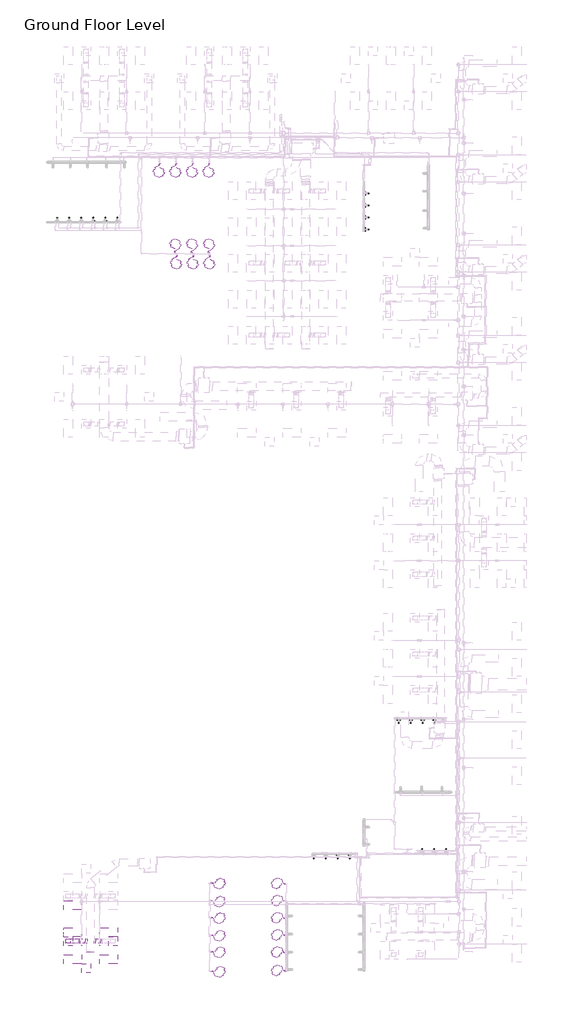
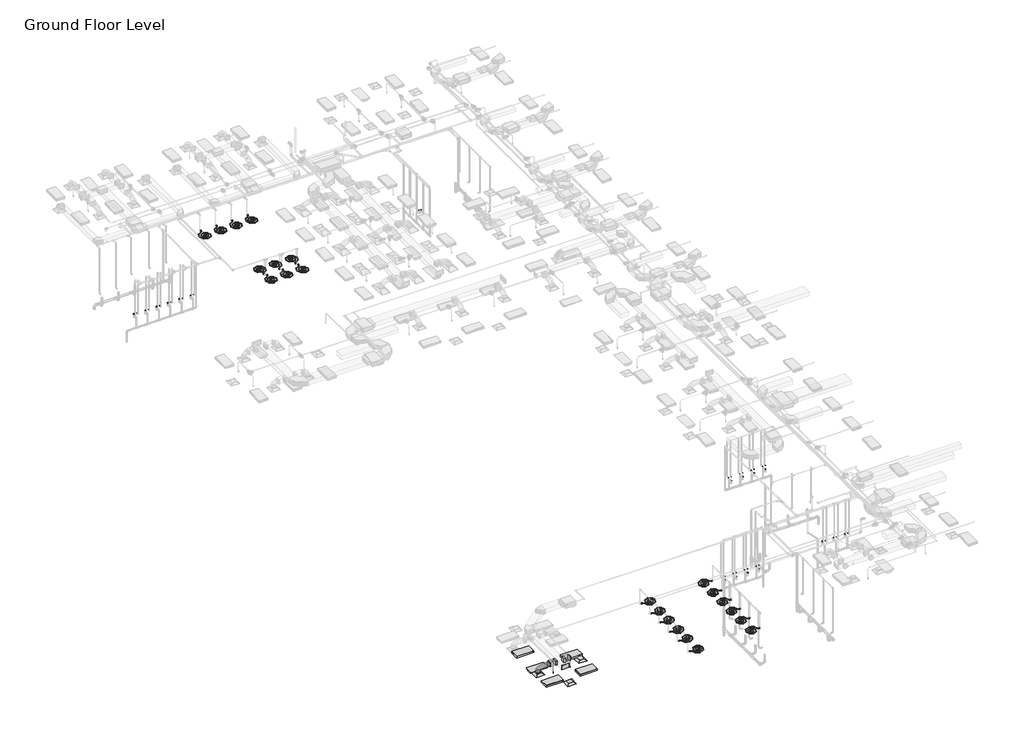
# One storey, part 1 of 73: 43 flow terminals, 6 duct fittings, 5 light fixtures, 3 air terminals, 3 duct segments, 2 fire suppression terminals, 2 pipe segments.
"""IFC4 building model written with IfcOpenShell, lengths in millimetres."""

from ifc_helpers import new_model, si_unit, point, frame, frame_2d, origin, place, context, project, spatial, polyline, circle_curve, ellipse_curve, trimmed, segment, composite_curve, outline, extrude, transform, mapped, element, save
from ifc_brep_helpers import plane_surface, cylinder_surface, advanced_brep
from components import m_return_diffuser_600_x_600_face_300_x_300_connection_ff221211, m_rectangular_endcap_standard_72d4d00d, m_rectangular_takeoff_standard_cb0ccb98, m_rectangular_takeoff_standard_2be5eba1, m_rectangular_to_round_transition_angle_45_degree_641efff0, m_sprinkler_dry_pendent_hosted_15_mm_dry_pendent_9bda8e11, lavatory_unit_m_type_1_c53317d3, shower_m_shower_m_c8aa42c7, m_emergency_recessed_lighting_fixture_600x1200_277_5b10b25d, m_troffer_light_parabolic_rectangular1_0600x1200mm_4_lamp_86473d4a

model = new_model("IFC4")

# Units and contexts
model_context = context("Model", 3, world=origin())
ifc_project = project(units=[si_unit("LENGTHUNIT", "METRE", prefix="MILLI")], contexts=[model_context])

# Site, building, storey
site = spatial("IfcSite", under=ifc_project)
building = spatial("IfcBuilding", under=site)
storey = spatial("IfcBuildingStorey", under=building, Name="Ground Floor Level", Elevation=900.0)

# Air terminals
placement = place(None, origin())
m_return_diffuser_600_x_600_face_300_x_300_connection_shape = m_return_diffuser_600_x_600_face_300_x_300_connection_ff221211(model_context)
element("IfcAirTerminal", 1, ObjectType="M_Return Diffuser : 600 x 600 Face 300 x 300 Connection", at=placement, inside=storey, context=model_context, shape_type="MappedRepresentation", body=[
    mapped(m_return_diffuser_600_x_600_face_300_x_300_connection_shape, transform((-19137.2327605, -40464.7846466, 3650.0), x_axis=(1.0, 0.0, 0.0), y_axis=(0.0, 1.0, 0.0), z_axis=(0.0, 0.0, 1.0))),
])
element("IfcAirTerminal", 2, ObjectType="M_Supply Diffuser : 600 x 600 Face 300 x 300 Connection", at=placement, inside=storey, context=model_context, shape_type="MappedRepresentation", body=[
    mapped(m_return_diffuser_600_x_600_face_300_x_300_connection_shape, transform((-20337.2327605, -38664.7846466, 3650.0), x_axis=(1.0, 0.0, 0.0), y_axis=(0.0, 1.0, 0.0), z_axis=(0.0, 0.0, 1.0))),
])
element("IfcAirTerminal", 3, ObjectType="M_Supply Diffuser : 600 x 600 Face 300 x 300 Connection", at=placement, inside=storey, context=model_context, shape_type="MappedRepresentation", body=[
    mapped(m_return_diffuser_600_x_600_face_300_x_300_connection_shape, transform((-17337.2327605, -38674.7846466, 3650.0), x_axis=(1.0, 0.0, 0.0), y_axis=(0.0, 1.0, 0.0), z_axis=(0.0, 0.0, 1.0))),
])

# Duct fittings
m_rectangular_endcap_standard_shape = m_rectangular_endcap_standard_72d4d00d(model_context)
element("IfcDuctFitting", 4, ObjectType="M_Rectangular Endcap : Standard", at=placement, inside=storey, context=model_context, shape_type="MappedRepresentation", body=[
    mapped(m_rectangular_endcap_standard_shape, transform((-18834.0450532, -39368.1580197, 4100.0), x_axis=(0.0, -1.0, 0.0), y_axis=(1.0, 0.0, 0.0), z_axis=(0.0, 0.0, 1.0))),
])
m_rectangular_takeoff_standard_shape = m_rectangular_takeoff_standard_cb0ccb98(model_context)
element("IfcDuctFitting", 5, ObjectType="M_Rectangular Takeoff : Standard", at=placement, inside=storey, context=model_context, shape_type="MappedRepresentation", body=[
    mapped(m_rectangular_takeoff_standard_shape, transform((-18584.0450532, -38664.7846466, 4100.0), x_axis=(1.0, 0.0, 0.0), y_axis=(0.0, -1.0, 0.0), z_axis=(0.0, 0.0, -1.0))),
])
m_rectangular_takeoff_standard_2_shape = m_rectangular_takeoff_standard_2be5eba1(model_context)
element("IfcDuctFitting", 6, ObjectType="M_Rectangular Takeoff : Standard", at=placement, inside=storey, context=model_context, shape_type="MappedRepresentation", body=[
    mapped(m_rectangular_takeoff_standard_2_shape, transform((-19084.0450532, -38664.7846466, 4100.0), x_axis=(-1.0, 0.0, 0.0), y_axis=(0.0, 1.0, 0.0), z_axis=(0.0, 0.0, -1.0))),
])
m_rectangular_to_round_transition_angle_45_degree_shape = m_rectangular_to_round_transition_angle_45_degree_641efff0(model_context)
element("IfcDuctFitting", 7, ObjectType="M_Rectangular to Round Transition - Angle : 45 Degree", at=placement, inside=storey, context=model_context, shape_type="MappedRepresentation", body=[
    mapped(m_rectangular_to_round_transition_angle_45_degree_shape, transform((-18164.5686918, -38664.7846466, 4100.0), x_axis=(1.0, 0.0, 0.0), y_axis=(0.0, 1.0, 0.0), z_axis=(0.0, 0.0, 1.0))),
])
element("IfcDuctFitting", 8, ObjectType="M_Rectangular to Round Transition - Angle : 45 Degree", at=placement, inside=storey, context=model_context, shape_type="MappedRepresentation", body=[
    mapped(m_rectangular_to_round_transition_angle_45_degree_shape, transform((-20337.2327605, -38664.7846466, 3751.6), x_axis=(0.0, 0.0, 1.0), y_axis=(-1.0, 0.0, 0.0), z_axis=(0.0, -1.0, 0.0))),
])
element("IfcDuctFitting", 9, ObjectType="M_Rectangular to Round Transition - Angle : 45 Degree", at=placement, inside=storey, context=model_context, shape_type="MappedRepresentation", body=[
    mapped(m_rectangular_to_round_transition_angle_45_degree_shape, transform((-19509.8968292, -38664.7846466, 4100.0), x_axis=(-1.0, 0.0, 0.0), y_axis=(0.0, -1.0, 0.0), z_axis=(0.0, 0.0, 1.0))),
])

# Duct segments
element("IfcDuctSegment", 10, ObjectType="Flex - Round", at=placement, inside=storey, context=model_context, shape_type="AdvancedBrep", body=[
    advanced_brep(
    [(-20187.2327605, -38664.7846466, 3826.6), (-20337.2327605, -38814.7846466, 3826.6), (-20487.2327605, -38664.7846466, 3826.6), (-20337.2327605, -38514.7846466, 3826.6), (-20187.2327605, -38664.7846466, 3832.2944892), (-20337.2327605, -38814.7846466, 3857.9377114), (-20487.2327605, -38664.7846466, 3883.5809337), (-20337.2327605, -38514.7846466, 3857.9377114), (-20186.478849, -38664.7846466, 3834.435049), (-20320.216828, -38814.7846466, 3906.2505728), (-20453.9548069, -38664.7846466, 3978.0660967), (-20320.216828, -38514.7846466, 3906.2505728), (-20168.8270484, -38664.7846466, 3857.8020236), (-20273.0329476, -38814.7846466, 3968.7113131), (-20377.2388469, -38664.7846466, 4079.6206026), (-20273.0329476, -38514.7846466, 3968.7113131), (-20132.5429398, -38664.7846466, 3881.8163788), (-20201.4769955, -38814.7846466, 4016.0700639), (-20270.4110511, -38664.7846466, 4150.3237489), (-20201.4769955, -38514.7846466, 4016.0700639), (-20067.7840843, -38664.7846466, 3906.4925606), (-20111.3448475, -38814.7846466, 4050.4146682), (-20154.9056106, -38664.7846466, 4194.3367758), (-20111.3448475, -38514.7846466, 4050.4146682), (-19981.8714556, -38664.7846466, 3926.0424542), (-20008.4323796, -38814.7846466, 4073.8329691), (-20034.9933036, -38664.7846466, 4221.6234841), (-20008.4323796, -38514.7846466, 4073.8329691), (-19883.3845655, -38664.7846466, 3939.1085462), (-19898.5354679, -38814.7846466, 4088.4128097), (-19913.6863702, -38664.7846466, 4237.7170733), (-19898.5354679, -38514.7846466, 4088.4128097), (-19779.9446601, -38664.7846466, 3946.398915), (-19787.4499883, -38814.7846466, 4096.242033), (-19794.9553164, -38664.7846466, 4246.085151), (-19787.4499883, -38514.7846466, 4096.242033), (-19678.2803236, -38664.7846466, 3949.4222102), (-19680.9718167, -38814.7846466, 4099.4084821), (-19683.6633098, -38664.7846466, 4249.394754), (-19680.9718167, -38514.7846466, 4099.4084821), (-19583.9733214, -38664.7846466, 3950.0028429), (-19584.8968292, -38814.7846466, 4100.0), (-19585.8203371, -38664.7846466, 4249.9971571), (-19584.8968292, -38514.7846466, 4100.0)],
    [
        (0, 1, circle_curve(frame((-20337.2327605, -38664.7846466, 3826.6), z_axis=(0.0, 0.0, -1.0), x_axis=(1.0, 0.0, 0.0)), 150.0)),
        (1, 2, circle_curve(frame((-20337.2327605, -38664.7846466, 3826.6), z_axis=(0.0, 0.0, -1.0), x_axis=(1.0, 0.0, 0.0)), 150.0)),
        (2, 3, circle_curve(frame((-20337.2327605, -38664.7846466, 3826.6), z_axis=(0.0, 0.0, -1.0), x_axis=(1.0, 0.0, 0.0)), 150.0)),
        (3, 0, circle_curve(frame((-20337.2327605, -38664.7846466, 3826.6), z_axis=(0.0, 0.0, -1.0), x_axis=(1.0, 0.0, 0.0)), 150.0)),
        (0, 4),
        (4, 5, ellipse_curve(frame((-20337.2327605, -38664.7846466, 3857.9377114), z_axis=(-0.16851014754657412, 0.0, -0.9856999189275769), x_axis=(0.9856999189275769, 0.0, -0.16851014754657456)), 152.176131, 150.0)),
        (5, 1),
        (5, 6, ellipse_curve(frame((-20337.2327605, -38664.7846466, 3857.9377114), z_axis=(-0.16851014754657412, 0.0, -0.9856999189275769), x_axis=(0.9856999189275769, 0.0, -0.16851014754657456)), 152.176131, 150.0)),
        (6, 2),
        (6, 7, ellipse_curve(frame((-20337.2327605, -38664.7846466, 3857.9377114), z_axis=(-0.16851014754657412, 0.0, -0.9856999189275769), x_axis=(0.9856999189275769, 0.0, -0.16851014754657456)), 152.176131, 150.0)),
        (7, 3),
        (7, 4, ellipse_curve(frame((-20337.2327605, -38664.7846466, 3857.9377114), z_axis=(-0.16851014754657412, 0.0, -0.9856999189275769), x_axis=(0.9856999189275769, 0.0, -0.16851014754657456)), 152.176131, 150.0)),
        (4, 8),
        (8, 9, ellipse_curve(frame((-20320.216828, -38664.7846466, 3906.2505728), z_axis=(-0.47309225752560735, 0.0, -0.881012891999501), x_axis=(0.8810128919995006, 0.0, -0.4730922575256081)), 151.8002519, 150.0)),
        (9, 5),
        (9, 10, ellipse_curve(frame((-20320.216828, -38664.7846466, 3906.2505728), z_axis=(-0.47309225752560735, 0.0, -0.881012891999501), x_axis=(0.8810128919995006, 0.0, -0.4730922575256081)), 151.8002519, 150.0)),
        (10, 6),
        (10, 11, ellipse_curve(frame((-20320.216828, -38664.7846466, 3906.2505728), z_axis=(-0.47309225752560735, 0.0, -0.881012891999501), x_axis=(0.8810128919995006, 0.0, -0.4730922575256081)), 151.8002519, 150.0)),
        (11, 7),
        (11, 8, ellipse_curve(frame((-20320.216828, -38664.7846466, 3906.2505728), z_axis=(-0.47309225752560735, 0.0, -0.881012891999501), x_axis=(0.8810128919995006, 0.0, -0.4730922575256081)), 151.8002519, 150.0)),
        (8, 12),
        (12, 13, ellipse_curve(frame((-20273.0329476, -38664.7846466, 3968.7113131), z_axis=(-0.728787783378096, 0.0, -0.6847396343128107), x_axis=(0.6847396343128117, 0.0, -0.7287877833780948)), 152.1832446, 150.0)),
        (13, 9),
        (13, 14, ellipse_curve(frame((-20273.0329476, -38664.7846466, 3968.7113131), z_axis=(-0.728787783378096, 0.0, -0.6847396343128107), x_axis=(0.6847396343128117, 0.0, -0.7287877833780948)), 152.1832446, 150.0)),
        (14, 10),
        (14, 15, ellipse_curve(frame((-20273.0329476, -38664.7846466, 3968.7113131), z_axis=(-0.728787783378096, 0.0, -0.6847396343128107), x_axis=(0.6847396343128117, 0.0, -0.7287877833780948)), 152.1832446, 150.0)),
        (15, 11),
        (15, 12, ellipse_curve(frame((-20273.0329476, -38664.7846466, 3968.7113131), z_axis=(-0.728787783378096, 0.0, -0.6847396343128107), x_axis=(0.6847396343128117, 0.0, -0.7287877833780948)), 152.1832446, 150.0)),
        (12, 16),
        (16, 17, ellipse_curve(frame((-20201.4769955, -38664.7846466, 4016.0700639), z_axis=(-0.8895859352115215, 0.0, -0.4567678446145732), x_axis=(0.45676784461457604, 0.0, -0.88958593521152)), 150.91705, 150.0)),
        (17, 13),
        (17, 18, ellipse_curve(frame((-20201.4769955, -38664.7846466, 4016.0700639), z_axis=(-0.8895859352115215, 0.0, -0.4567678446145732), x_axis=(0.45676784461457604, 0.0, -0.88958593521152)), 150.91705, 150.0)),
        (18, 14),
        (18, 19, ellipse_curve(frame((-20201.4769955, -38664.7846466, 4016.0700639), z_axis=(-0.8895859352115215, 0.0, -0.4567678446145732), x_axis=(0.45676784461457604, 0.0, -0.88958593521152)), 150.91705, 150.0)),
        (19, 15),
        (19, 16, ellipse_curve(frame((-20201.4769955, -38664.7846466, 4016.0700639), z_axis=(-0.8895859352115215, 0.0, -0.4567678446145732), x_axis=(0.45676784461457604, 0.0, -0.88958593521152)), 150.91705, 150.0)),
        (16, 20),
        (20, 21, ellipse_curve(frame((-20111.3448475, -38664.7846466, 4050.4146682), z_axis=(-0.9571203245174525, 0.0, -0.2896906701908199), x_axis=(0.28969067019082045, 0.0, -0.9571203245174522)), 150.369921, 150.0)),
        (21, 17),
        (21, 22, ellipse_curve(frame((-20111.3448475, -38664.7846466, 4050.4146682), z_axis=(-0.9571203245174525, 0.0, -0.2896906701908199), x_axis=(0.28969067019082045, 0.0, -0.9571203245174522)), 150.369921, 150.0)),
        (22, 18),
        (22, 23, ellipse_curve(frame((-20111.3448475, -38664.7846466, 4050.4146682), z_axis=(-0.9571203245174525, 0.0, -0.2896906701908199), x_axis=(0.28969067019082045, 0.0, -0.9571203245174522)), 150.369921, 150.0)),
        (23, 19),
        (23, 20, ellipse_curve(frame((-20111.3448475, -38664.7846466, 4050.4146682), z_axis=(-0.9571203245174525, 0.0, -0.2896906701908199), x_axis=(0.28969067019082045, 0.0, -0.9571203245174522)), 150.369921, 150.0)),
        (20, 24),
        (24, 25, ellipse_curve(frame((-20008.4323796, -38664.7846466, 4073.8329691), z_axis=(-0.9842313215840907, 0.0, -0.17688613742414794), x_axis=(0.17688613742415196, 0.0, -0.9842313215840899)), 150.1583131, 150.0)),
        (25, 21),
        (25, 26, ellipse_curve(frame((-20008.4323796, -38664.7846466, 4073.8329691), z_axis=(-0.9842313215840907, 0.0, -0.17688613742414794), x_axis=(0.17688613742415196, 0.0, -0.9842313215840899)), 150.1583131, 150.0)),
        (26, 22),
        (26, 27, ellipse_curve(frame((-20008.4323796, -38664.7846466, 4073.8329691), z_axis=(-0.9842313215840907, 0.0, -0.17688613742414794), x_axis=(0.17688613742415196, 0.0, -0.9842313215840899)), 150.1583131, 150.0)),
        (27, 23),
        (27, 24, ellipse_curve(frame((-20008.4323796, -38664.7846466, 4073.8329691), z_axis=(-0.9842313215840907, 0.0, -0.17688613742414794), x_axis=(0.17688613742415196, 0.0, -0.9842313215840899)), 150.1583131, 150.0)),
        (24, 28),
        (28, 29, ellipse_curve(frame((-19898.5354679, -38664.7846466, 4088.4128097), z_axis=(-0.9948906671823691, 0.0, -0.1009582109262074), x_axis=(0.10095821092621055, 0.0, -0.9948906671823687)), 150.0710264, 150.0)),
        (29, 25),
        (29, 30, ellipse_curve(frame((-19898.5354679, -38664.7846466, 4088.4128097), z_axis=(-0.9948906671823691, 0.0, -0.1009582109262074), x_axis=(0.10095821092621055, 0.0, -0.9948906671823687)), 150.0710264, 150.0)),
        (30, 26),
        (30, 31, ellipse_curve(frame((-19898.5354679, -38664.7846466, 4088.4128097), z_axis=(-0.9948906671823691, 0.0, -0.1009582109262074), x_axis=(0.10095821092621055, 0.0, -0.9948906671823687)), 150.0710264, 150.0)),
        (31, 27),
        (31, 28, ellipse_curve(frame((-19898.5354679, -38664.7846466, 4088.4128097), z_axis=(-0.9948906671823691, 0.0, -0.1009582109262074), x_axis=(0.10095821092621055, 0.0, -0.9948906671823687)), 150.0710264, 150.0)),
        (28, 32),
        (32, 33, ellipse_curve(frame((-19787.4499883, -38664.7846466, 4096.242033), z_axis=(-0.9987479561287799, 0.0, -0.05002519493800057), x_axis=(0.05002519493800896, 0.0, -0.9987479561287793)), 150.0309634, 150.0)),
        (33, 29),
        (33, 34, ellipse_curve(frame((-19787.4499883, -38664.7846466, 4096.242033), z_axis=(-0.9987479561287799, 0.0, -0.05002519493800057), x_axis=(0.05002519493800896, 0.0, -0.9987479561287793)), 150.0309634, 150.0)),
        (34, 30),
        (34, 35, ellipse_curve(frame((-19787.4499883, -38664.7846466, 4096.242033), z_axis=(-0.9987479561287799, 0.0, -0.05002519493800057), x_axis=(0.05002519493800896, 0.0, -0.9987479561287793)), 150.0309634, 150.0)),
        (35, 31),
        (35, 32, ellipse_curve(frame((-19787.4499883, -38664.7846466, 4096.242033), z_axis=(-0.9987479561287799, 0.0, -0.05002519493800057), x_axis=(0.05002519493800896, 0.0, -0.9987479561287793)), 150.0309634, 150.0)),
        (32, 36),
        (36, 37, ellipse_curve(frame((-19680.9718167, -38664.7846466, 4099.4084821), z_axis=(-0.9998390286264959, 0.0, -0.017942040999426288), x_axis=(0.01794204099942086, 0.0, -0.999839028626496)), 150.0104193, 150.0)),
        (37, 33),
        (37, 38, ellipse_curve(frame((-19680.9718167, -38664.7846466, 4099.4084821), z_axis=(-0.9998390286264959, 0.0, -0.017942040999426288), x_axis=(0.01794204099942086, 0.0, -0.999839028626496)), 150.0104193, 150.0)),
        (38, 34),
        (38, 39, ellipse_curve(frame((-19680.9718167, -38664.7846466, 4099.4084821), z_axis=(-0.9998390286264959, 0.0, -0.017942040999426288), x_axis=(0.01794204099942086, 0.0, -0.999839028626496)), 150.0104193, 150.0)),
        (39, 35),
        (39, 36, ellipse_curve(frame((-19680.9718167, -38664.7846466, 4099.4084821), z_axis=(-0.9998390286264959, 0.0, -0.017942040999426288), x_axis=(0.01794204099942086, 0.0, -0.999839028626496)), 150.0104193, 150.0)),
        (36, 40),
        (40, 41, circle_curve(frame((-19584.8968292, -38664.7846466, 4100.0), z_axis=(-0.9999810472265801, 0.0, -0.006156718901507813), x_axis=(0.006156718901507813, 0.0, -0.9999810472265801)), 150.0)),
        (41, 37),
        (41, 42, circle_curve(frame((-19584.8968292, -38664.7846466, 4100.0), z_axis=(-0.9999810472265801, 0.0, -0.006156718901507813), x_axis=(0.006156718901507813, 0.0, -0.9999810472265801)), 150.0)),
        (42, 38),
        (42, 43, circle_curve(frame((-19584.8968292, -38664.7846466, 4100.0), z_axis=(-0.9999810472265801, 0.0, -0.006156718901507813), x_axis=(0.006156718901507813, 0.0, -0.9999810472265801)), 150.0)),
        (43, 39),
        (43, 40, circle_curve(frame((-19584.8968292, -38664.7846466, 4100.0), z_axis=(-0.9999810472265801, 0.0, -0.006156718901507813), x_axis=(0.006156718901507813, 0.0, -0.9999810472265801)), 150.0)),
    ],
    [
        plane_surface(frame((-20337.2327605, -38814.7846466, 3826.6), z_axis=(0.0, 0.0, -1.0), x_axis=(1.0, 0.0, 0.0))),
        cylinder_surface(frame((-20337.2327605, -38664.7846466, 3826.6), z_axis=(0.0, 0.0, -1.0), x_axis=(1.0, 0.0, 0.0)), 150.0),
        cylinder_surface(frame((-20337.2327605, -38664.7846466, 3857.9377114), z_axis=(-0.3322008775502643, 0.0, -0.9432086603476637), x_axis=(0.9432086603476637, 0.0, -0.3322008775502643)), 150.0),
        cylinder_surface(frame((-20320.216828, -38664.7846466, 3906.2505728), z_axis=(-0.602762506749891, 0.0, -0.7979206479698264), x_axis=(0.7979206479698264, 0.0, -0.602762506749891)), 150.0),
        cylinder_surface(frame((-20273.0329476, -38664.7846466, 3968.7113131), z_axis=(-0.8339024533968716, 0.0, -0.5519118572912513), x_axis=(0.5519118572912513, 0.0, -0.8339024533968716)), 150.0),
        cylinder_surface(frame((-20201.4769955, -38664.7846466, 4016.0700639), z_axis=(-0.9344582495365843, 0.0, -0.35607271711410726), x_axis=(0.35607271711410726, 0.0, -0.9344582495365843)), 150.0),
        cylinder_surface(frame((-20111.3448475, -38664.7846466, 4050.4146682), z_axis=(-0.9750732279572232, 0.0, -0.2218833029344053), x_axis=(0.2218833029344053, 0.0, -0.9750732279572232)), 150.0),
        cylinder_surface(frame((-20008.4323796, -38664.7846466, 4073.8329691), z_axis=(-0.9913140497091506, 0.0, -0.13151598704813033), x_axis=(0.13151598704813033, 0.0, -0.9913140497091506)), 150.0),
        cylinder_surface(frame((-19898.5354679, -38664.7846466, 4088.4128097), z_axis=(-0.9975255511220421, 0.0, -0.07030487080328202), x_axis=(0.07030487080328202, 0.0, -0.9975255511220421)), 150.0),
        cylinder_surface(frame((-19787.4499883, -38664.7846466, 4096.242033), z_axis=(-0.9995581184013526, 0.0, -0.02972487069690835), x_axis=(0.02972487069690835, 0.0, -0.9995581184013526)), 150.0),
        cylinder_surface(frame((-19680.9718167, -38664.7846466, 4099.4084821), z_axis=(-0.9999810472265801, 0.0, -0.006156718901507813), x_axis=(0.006156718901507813, 0.0, -0.9999810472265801)), 150.0),
        plane_surface(frame((-19584.8968292, -38814.7846466, 4100.0), z_axis=(0.9999810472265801, 0.0, 0.00615671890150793), x_axis=(0.00615671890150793, 0.0, -0.9999810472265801))),
    ],
    [
        (0, [[1, 2, 3, 4]]),
        (1, [[-1, 5, 6, 7]]),
        (1, [[-2, -7, 8, 9]]),
        (1, [[-3, -9, 10, 11]]),
        (1, [[-4, -11, 12, -5]]),
        (2, [[-6, 13, 14, 15]]),
        (2, [[-8, -15, 16, 17]]),
        (2, [[-10, -17, 18, 19]]),
        (2, [[-12, -19, 20, -13]]),
        (3, [[-14, 21, 22, 23]]),
        (3, [[-16, -23, 24, 25]]),
        (3, [[-18, -25, 26, 27]]),
        (3, [[-20, -27, 28, -21]]),
        (4, [[-22, 29, 30, 31]]),
        (4, [[-24, -31, 32, 33]]),
        (4, [[-26, -33, 34, 35]]),
        (4, [[-28, -35, 36, -29]]),
        (5, [[-30, 37, 38, 39]]),
        (5, [[-32, -39, 40, 41]]),
        (5, [[-34, -41, 42, 43]]),
        (5, [[-36, -43, 44, -37]]),
        (6, [[-38, 45, 46, 47]]),
        (6, [[-40, -47, 48, 49]]),
        (6, [[-42, -49, 50, 51]]),
        (6, [[-44, -51, 52, -45]]),
        (7, [[-46, 53, 54, 55]]),
        (7, [[-48, -55, 56, 57]]),
        (7, [[-50, -57, 58, 59]]),
        (7, [[-52, -59, 60, -53]]),
        (8, [[-54, 61, 62, 63]]),
        (8, [[-56, -63, 64, 65]]),
        (8, [[-58, -65, 66, 67]]),
        (8, [[-60, -67, 68, -61]]),
        (9, [[-62, 69, 70, 71]]),
        (9, [[-64, -71, 72, 73]]),
        (9, [[-66, -73, 74, 75]]),
        (9, [[-68, -75, 76, -69]]),
        (10, [[-70, 77, 78, 79]]),
        (10, [[-72, -79, 80, 81]]),
        (10, [[-74, -81, 82, 83]]),
        (10, [[-76, -83, 84, -77]]),
        (11, [[-84, -82, -80, -78]]),
    ],
),
])
element("IfcDuctSegment", 11, ObjectType="Radius Elbows / Taps", at=placement, inside=storey, context=model_context, shape_type="SweptSolid", body=[
    extrude(outline(polyline([(-19185.6450532, -38514.7846466), (-19185.6450532, -38814.7846466), (-19509.8968292, -38814.7846466), (-19509.8968292, -38514.7846466), (-19185.6450532, -38514.7846466)])), frame((0.0, 0.0, 3950.0), z_axis=(0.0, 0.0, 1.0), x_axis=(1.0, 0.0, 0.0)), (0.0, 0.0, 1.0), 300.0),
])
element("IfcDuctSegment", 12, ObjectType="Radius Elbows / Taps", at=placement, inside=storey, context=model_context, shape_type="SweptSolid", body=[
    extrude(outline(polyline([(-18482.4450532, -38814.7846466), (-18482.4450532, -38514.7846466), (-18164.5686918, -38514.7846466), (-18164.5686918, -38814.7846466), (-18482.4450532, -38814.7846466)])), frame((0.0, 0.0, 3950.0), z_axis=(0.0, 0.0, 1.0), x_axis=(1.0, 0.0, 0.0)), (0.0, 0.0, 1.0), 300.0),
])

# Fire suppression terminals
m_sprinkler_dry_pendent_hosted_15_mm_dry_pendent_shape = m_sprinkler_dry_pendent_hosted_15_mm_dry_pendent_9bda8e11(model_context)
element("IfcFireSuppressionTerminal", 13, ObjectType="M_Sprinkler - Dry - Pendent - Hosted : 15 mm Dry Pendent", at=placement, inside=storey, context=model_context, shape_type="MappedRepresentation", body=[
    mapped(m_sprinkler_dry_pendent_hosted_15_mm_dry_pendent_shape, transform((-18237.2327605, -38964.7846466, 3650.0), x_axis=(1.0, 0.0, 0.0), y_axis=(0.0, -1.0, 0.0), z_axis=(0.0, 0.0, -1.0))),
])
element("IfcFireSuppressionTerminal", 14, ObjectType="M_Sprinkler - Dry - Pendent - Hosted : 15 mm Dry Pendent", at=placement, inside=storey, context=model_context, shape_type="MappedRepresentation", body=[
    mapped(m_sprinkler_dry_pendent_hosted_15_mm_dry_pendent_shape, transform((-19437.2327605, -38964.7846466, 3650.0), x_axis=(1.0, 0.0, 0.0), y_axis=(0.0, -1.0, 0.0), z_axis=(0.0, 0.0, -1.0))),
])

# Flow terminals
lavatory_unit_m_type_1_shape = lavatory_unit_m_type_1_c53317d3(model_context)
element("IfcFlowTerminal", 15, ObjectType="Lavatory Unit-M : Type 1", at=placement, inside=storey, context=model_context, shape_type="MappedRepresentation", body=[
    mapped(lavatory_unit_m_type_1_shape, transform((-21186.2502, 9255.2153534, 920.0), x_axis=(1.0, 0.0, 0.0), y_axis=(0.0, 1.0, 0.0), z_axis=(0.0, 0.0, 1.0))),
])
element("IfcFlowTerminal", 16, ObjectType="Lavatory Unit-M : Type 1", at=placement, inside=storey, context=model_context, shape_type="MappedRepresentation", body=[
    mapped(lavatory_unit_m_type_1_shape, transform((-20386.2502, 9255.2153534, 920.0), x_axis=(1.0, 0.0, 0.0), y_axis=(0.0, 1.0, 0.0), z_axis=(0.0, 0.0, 1.0))),
])
element("IfcFlowTerminal", 17, ObjectType="Lavatory Unit-M : Type 1", at=placement, inside=storey, context=model_context, shape_type="MappedRepresentation", body=[
    mapped(lavatory_unit_m_type_1_shape, transform((-537.2327605, 8796.1979139, 920.0), x_axis=(0.0, -1.0, 0.0), y_axis=(1.0, 0.0, 0.0), z_axis=(0.0, 0.0, 1.0))),
])
element("IfcFlowTerminal", 18, ObjectType="Lavatory Unit-M : Type 1", at=placement, inside=storey, context=model_context, shape_type="MappedRepresentation", body=[
    mapped(lavatory_unit_m_type_1_shape, transform((-19586.2502, 9255.2153534, 920.0), x_axis=(1.0, 0.0, 0.0), y_axis=(0.0, 1.0, 0.0), z_axis=(0.0, 0.0, 1.0))),
])
element("IfcFlowTerminal", 19, ObjectType="Lavatory Unit-M : Type 1", at=placement, inside=storey, context=model_context, shape_type="MappedRepresentation", body=[
    mapped(lavatory_unit_m_type_1_shape, transform((-18786.2502, 9255.2153534, 920.0), x_axis=(1.0, 0.0, 0.0), y_axis=(0.0, 1.0, 0.0), z_axis=(0.0, 0.0, 1.0))),
])
element("IfcFlowTerminal", 20, ObjectType="Lavatory Unit-M : Type 1", at=placement, inside=storey, context=model_context, shape_type="MappedRepresentation", body=[
    mapped(lavatory_unit_m_type_1_shape, transform((-17986.2502, 9255.2153534, 920.0), x_axis=(1.0, 0.0, 0.0), y_axis=(0.0, 1.0, 0.0), z_axis=(0.0, 0.0, 1.0))),
])
element("IfcFlowTerminal", 21, ObjectType="Lavatory Unit-M : Type 1", at=placement, inside=storey, context=model_context, shape_type="MappedRepresentation", body=[
    mapped(lavatory_unit_m_type_1_shape, transform((-17186.2502, 9255.2153534, 920.0), x_axis=(1.0, 0.0, 0.0), y_axis=(0.0, 1.0, 0.0), z_axis=(0.0, 0.0, 1.0))),
])
element("IfcFlowTerminal", 22, ObjectType="Lavatory Unit-M : Type 1", at=placement, inside=storey, context=model_context, shape_type="MappedRepresentation", body=[
    mapped(lavatory_unit_m_type_1_shape, transform((-537.2327605, 9596.1979139, 920.0), x_axis=(0.0, -1.0, 0.0), y_axis=(1.0, 0.0, 0.0), z_axis=(0.0, 0.0, 1.0))),
])
element("IfcFlowTerminal", 23, ObjectType="Lavatory Unit-M : Type 1", at=placement, inside=storey, context=model_context, shape_type="MappedRepresentation", body=[
    mapped(lavatory_unit_m_type_1_shape, transform((-537.2327605, 10396.1979139, 920.0), x_axis=(0.0, -1.0, 0.0), y_axis=(1.0, 0.0, 0.0), z_axis=(0.0, 0.0, 1.0))),
])
element("IfcFlowTerminal", 24, ObjectType="Lavatory Unit-M : Type 1", at=placement, inside=storey, context=model_context, shape_type="MappedRepresentation", body=[
    mapped(lavatory_unit_m_type_1_shape, transform((-537.2327605, 11196.1979139, 920.0), x_axis=(0.0, -1.0, 0.0), y_axis=(1.0, 0.0, 0.0), z_axis=(0.0, 0.0, 1.0))),
])
element("IfcFlowTerminal", 25, ObjectType="Lavatory Unit-M : Type 1", at=placement, inside=storey, context=model_context, shape_type="MappedRepresentation", body=[
    mapped(lavatory_unit_m_type_1_shape, transform((1803.7498, -23964.7846466, 920.0), x_axis=(-1.0, 0.0, 0.0), y_axis=(0.0, -1.0, 0.0), z_axis=(0.0, 0.0, 1.0))),
])
element("IfcFlowTerminal", 26, ObjectType="Lavatory Unit-M : Type 1", at=placement, inside=storey, context=model_context, shape_type="MappedRepresentation", body=[
    mapped(lavatory_unit_m_type_1_shape, transform((2603.7498, -23964.7846466, 920.0), x_axis=(-1.0, 0.0, 0.0), y_axis=(0.0, -1.0, 0.0), z_axis=(0.0, 0.0, 1.0))),
])
element("IfcFlowTerminal", 27, ObjectType="Lavatory Unit-M : Type 1", at=placement, inside=storey, context=model_context, shape_type="MappedRepresentation", body=[
    mapped(lavatory_unit_m_type_1_shape, transform((3403.7498, -23964.7846466, 920.0), x_axis=(-1.0, 0.0, 0.0), y_axis=(0.0, -1.0, 0.0), z_axis=(0.0, 0.0, 1.0))),
])
element("IfcFlowTerminal", 28, ObjectType="Lavatory Unit-M : Type 1", at=placement, inside=storey, context=model_context, shape_type="MappedRepresentation", body=[
    mapped(lavatory_unit_m_type_1_shape, transform((4203.7498, -23964.7846466, 920.0), x_axis=(-1.0, 0.0, 0.0), y_axis=(0.0, -1.0, 0.0), z_axis=(0.0, 0.0, 1.0))),
])
element("IfcFlowTerminal", 29, ObjectType="Lavatory Unit-M : Type 1", at=placement, inside=storey, context=model_context, shape_type="MappedRepresentation", body=[
    mapped(lavatory_unit_m_type_1_shape, transform((4701.7846789, -32744.7846466, 920.0), x_axis=(1.0, 0.0, 0.0), y_axis=(0.0, 1.0, 0.0), z_axis=(0.0, 0.0, 1.0))),
])
element("IfcFlowTerminal", 30, ObjectType="Lavatory Unit-M : Type 1", at=placement, inside=storey, context=model_context, shape_type="MappedRepresentation", body=[
    mapped(lavatory_unit_m_type_1_shape, transform((3901.7846789, -32744.7846466, 920.0), x_axis=(1.0, 0.0, 0.0), y_axis=(0.0, 1.0, 0.0), z_axis=(0.0, 0.0, 1.0))),
])
element("IfcFlowTerminal", 31, ObjectType="Lavatory Unit-M : Type 1", at=placement, inside=storey, context=model_context, shape_type="MappedRepresentation", body=[
    mapped(lavatory_unit_m_type_1_shape, transform((3101.7846789, -32744.7846466, 920.0), x_axis=(1.0, 0.0, 0.0), y_axis=(0.0, 1.0, 0.0), z_axis=(0.0, 0.0, 1.0))),
])
element("IfcFlowTerminal", 32, ObjectType="Lavatory Unit-M : Type 1", at=placement, inside=storey, context=model_context, shape_type="MappedRepresentation", body=[
    mapped(lavatory_unit_m_type_1_shape, transform((-1448.215321, -32964.7846466, 920.0), x_axis=(-1.0, 0.0, 0.0), y_axis=(0.0, -1.0, 0.0), z_axis=(0.0, 0.0, 1.0))),
])
element("IfcFlowTerminal", 33, ObjectType="Lavatory Unit-M : Type 1", at=placement, inside=storey, context=model_context, shape_type="MappedRepresentation", body=[
    mapped(lavatory_unit_m_type_1_shape, transform((-2248.215321, -32964.7846466, 920.0), x_axis=(-1.0, 0.0, 0.0), y_axis=(0.0, -1.0, 0.0), z_axis=(0.0, 0.0, 1.0))),
])
element("IfcFlowTerminal", 34, ObjectType="Lavatory Unit-M : Type 1", at=placement, inside=storey, context=model_context, shape_type="MappedRepresentation", body=[
    mapped(lavatory_unit_m_type_1_shape, transform((-3048.215321, -32964.7846466, 920.0), x_axis=(-1.0, 0.0, 0.0), y_axis=(0.0, -1.0, 0.0), z_axis=(0.0, 0.0, 1.0))),
])
element("IfcFlowTerminal", 35, ObjectType="Lavatory Unit-M : Type 1", at=placement, inside=storey, context=model_context, shape_type="MappedRepresentation", body=[
    mapped(lavatory_unit_m_type_1_shape, transform((-3848.215321, -32964.7846466, 920.0), x_axis=(-1.0, 0.0, 0.0), y_axis=(0.0, -1.0, 0.0), z_axis=(0.0, 0.0, 1.0))),
])
shower_m_shower_m_shape = shower_m_shower_m_c8aa42c7(model_context)
element("IfcFlowTerminal", 36, ObjectType="Shower-M : Shower-M", at=placement, inside=storey, context=model_context, shape_type="MappedRepresentation", body=[
    mapped(shower_m_shower_m_shape, transform((-10283.9007605, -34799.6019973, 3200.0), x_axis=(-1.0, 0.0, 0.0), y_axis=(0.0, -1.0, 0.0), z_axis=(0.0, 0.0, 1.0))),
])
element("IfcFlowTerminal", 37, ObjectType="Shower-M : Shower-M", at=placement, inside=storey, context=model_context, shape_type="MappedRepresentation", body=[
    mapped(shower_m_shower_m_shape, transform((-10283.9007605, -35999.6019973, 3200.0), x_axis=(-1.0, 0.0, 0.0), y_axis=(0.0, -1.0, 0.0), z_axis=(0.0, 0.0, 1.0))),
])
element("IfcFlowTerminal", 38, ObjectType="Shower-M : Shower-M", at=placement, inside=storey, context=model_context, shape_type="MappedRepresentation", body=[
    mapped(shower_m_shower_m_shape, transform((-10283.9007605, -37099.6019973, 3200.0), x_axis=(-1.0, 0.0, 0.0), y_axis=(0.0, -1.0, 0.0), z_axis=(0.0, 0.0, 1.0))),
])
element("IfcFlowTerminal", 39, ObjectType="Shower-M : Shower-M", at=placement, inside=storey, context=model_context, shape_type="MappedRepresentation", body=[
    mapped(shower_m_shower_m_shape, transform((-10283.9007605, -38269.7846466, 3200.0), x_axis=(-1.0, 0.0, 0.0), y_axis=(0.0, -1.0, 0.0), z_axis=(0.0, 0.0, 1.0))),
])
element("IfcFlowTerminal", 40, ObjectType="Shower-M : Shower-M", at=placement, inside=storey, context=model_context, shape_type="MappedRepresentation", body=[
    mapped(shower_m_shower_m_shape, transform((-10283.9007605, -39369.7846466, 3200.0), x_axis=(-1.0, 0.0, 0.0), y_axis=(0.0, -1.0, 0.0), z_axis=(0.0, 0.0, 1.0))),
])
element("IfcFlowTerminal", 41, ObjectType="Shower-M : Shower-M", at=placement, inside=storey, context=model_context, shape_type="MappedRepresentation", body=[
    mapped(shower_m_shower_m_shape, transform((-10283.9007605, -40669.7846466, 3200.0), x_axis=(-1.0, 0.0, 0.0), y_axis=(0.0, -1.0, 0.0), z_axis=(0.0, 0.0, 1.0))),
])
element("IfcFlowTerminal", 42, ObjectType="Shower-M : Shower-M", at=placement, inside=storey, context=model_context, shape_type="MappedRepresentation", body=[
    mapped(shower_m_shower_m_shape, transform((-6390.5687605, -34864.6926466, 3200.0), x_axis=(1.0, 0.0, 0.0), y_axis=(0.0, 1.0, 0.0), z_axis=(0.0, 0.0, 1.0))),
])
element("IfcFlowTerminal", 43, ObjectType="Shower-M : Shower-M", at=placement, inside=storey, context=model_context, shape_type="MappedRepresentation", body=[
    mapped(shower_m_shower_m_shape, transform((-6390.5687605, -36012.7835466, 3200.0), x_axis=(1.0, 0.0, 0.0), y_axis=(0.0, 1.0, 0.0), z_axis=(0.0, 0.0, 1.0))),
])
element("IfcFlowTerminal", 44, ObjectType="Shower-M : Shower-M", at=placement, inside=storey, context=model_context, shape_type="MappedRepresentation", body=[
    mapped(shower_m_shower_m_shape, transform((-6390.5687605, -37152.7833366, 3200.0), x_axis=(1.0, 0.0, 0.0), y_axis=(0.0, 1.0, 0.0), z_axis=(0.0, 0.0, 1.0))),
])
element("IfcFlowTerminal", 45, ObjectType="Shower-M : Shower-M", at=placement, inside=storey, context=model_context, shape_type="MappedRepresentation", body=[
    mapped(shower_m_shower_m_shape, transform((-6390.5687605, -38292.7833266, 3200.0), x_axis=(1.0, 0.0, 0.0), y_axis=(0.0, 1.0, 0.0), z_axis=(0.0, 0.0, 1.0))),
])
element("IfcFlowTerminal", 46, ObjectType="Shower-M : Shower-M", at=placement, inside=storey, context=model_context, shape_type="MappedRepresentation", body=[
    mapped(shower_m_shower_m_shape, transform((-6390.5687605, -39432.7929166, 3200.0), x_axis=(1.0, 0.0, 0.0), y_axis=(0.0, 1.0, 0.0), z_axis=(0.0, 0.0, 1.0))),
])
element("IfcFlowTerminal", 47, ObjectType="Shower-M : Shower-M", at=placement, inside=storey, context=model_context, shape_type="MappedRepresentation", body=[
    mapped(shower_m_shower_m_shape, transform((-6390.5687605, -40654.7846466, 3200.0), x_axis=(1.0, 0.0, 0.0), y_axis=(0.0, 1.0, 0.0), z_axis=(0.0, 0.0, 1.0))),
])
element("IfcFlowTerminal", 48, ObjectType="Shower-M : Shower-M", at=placement, inside=storey, context=model_context, shape_type="MappedRepresentation", body=[
    mapped(shower_m_shower_m_shape, transform((-14247.2327605, 12535.2153534, 3200.0), x_axis=(0.0, 1.0, 0.0), y_axis=(-1.0, 0.0, 0.0), z_axis=(0.0, 0.0, 1.0))),
])
element("IfcFlowTerminal", 49, ObjectType="Shower-M : Shower-M", at=placement, inside=storey, context=model_context, shape_type="MappedRepresentation", body=[
    mapped(shower_m_shower_m_shape, transform((-13147.2327605, 12535.2153534, 3200.0), x_axis=(0.0, 1.0, 0.0), y_axis=(-1.0, 0.0, 0.0), z_axis=(0.0, 0.0, 1.0))),
])
element("IfcFlowTerminal", 50, ObjectType="Shower-M : Shower-M", at=placement, inside=storey, context=model_context, shape_type="MappedRepresentation", body=[
    mapped(shower_m_shower_m_shape, transform((-12047.2327605, 12535.2153534, 3200.0), x_axis=(0.0, 1.0, 0.0), y_axis=(-1.0, 0.0, 0.0), z_axis=(0.0, 0.0, 1.0))),
])
element("IfcFlowTerminal", 51, ObjectType="Shower-M : Shower-M", at=placement, inside=storey, context=model_context, shape_type="MappedRepresentation", body=[
    mapped(shower_m_shower_m_shape, transform((-10947.2327605, 12535.2153534, 3200.0), x_axis=(0.0, 1.0, 0.0), y_axis=(-1.0, 0.0, 0.0), z_axis=(0.0, 0.0, 1.0))),
])
element("IfcFlowTerminal", 52, ObjectType="Shower-M : Shower-M", at=placement, inside=storey, context=model_context, shape_type="MappedRepresentation", body=[
    mapped(shower_m_shower_m_shape, transform((-13232.2327605, 7645.2153534, 3200.0), x_axis=(0.0, -1.0, 0.0), y_axis=(1.0, 0.0, 0.0), z_axis=(0.0, 0.0, 1.0))),
])
element("IfcFlowTerminal", 53, ObjectType="Shower-M : Shower-M", at=placement, inside=storey, context=model_context, shape_type="MappedRepresentation", body=[
    mapped(shower_m_shower_m_shape, transform((-12122.2327605, 7645.2153534, 3200.0), x_axis=(0.0, -1.0, 0.0), y_axis=(1.0, 0.0, 0.0), z_axis=(0.0, 0.0, 1.0))),
])
element("IfcFlowTerminal", 54, ObjectType="Shower-M : Shower-M", at=placement, inside=storey, context=model_context, shape_type="MappedRepresentation", body=[
    mapped(shower_m_shower_m_shape, transform((-10987.2327605, 7645.2153534, 3200.0), x_axis=(0.0, -1.0, 0.0), y_axis=(1.0, 0.0, 0.0), z_axis=(0.0, 0.0, 1.0))),
])
element("IfcFlowTerminal", 55, ObjectType="Shower-M : Shower-M", at=placement, inside=storey, context=model_context, shape_type="MappedRepresentation", body=[
    mapped(shower_m_shower_m_shape, transform((-10897.2327605, 6425.2153534, 3200.0), x_axis=(0.0, 1.0, 0.0), y_axis=(-1.0, 0.0, 0.0), z_axis=(0.0, 0.0, 1.0))),
])
element("IfcFlowTerminal", 56, ObjectType="Shower-M : Shower-M", at=placement, inside=storey, context=model_context, shape_type="MappedRepresentation", body=[
    mapped(shower_m_shower_m_shape, transform((-11997.2327605, 6435.2153534, 3200.0), x_axis=(0.0, 1.0, 0.0), y_axis=(-1.0, 0.0, 0.0), z_axis=(0.0, 0.0, 1.0))),
])
element("IfcFlowTerminal", 57, ObjectType="Shower-M : Shower-M", at=placement, inside=storey, context=model_context, shape_type="MappedRepresentation", body=[
    mapped(shower_m_shower_m_shape, transform((-13107.2327605, 6435.2153534, 3200.0), x_axis=(0.0, 1.0, 0.0), y_axis=(-1.0, 0.0, 0.0), z_axis=(0.0, 0.0, 1.0))),
])

# Light fixtures
m_emergency_recessed_lighting_fixture_600x1200_277_shape = m_emergency_recessed_lighting_fixture_600x1200_277_5b10b25d(model_context)
element("IfcLightFixture", 58, ObjectType="M_Emergency Recessed Lighting Fixture : 600x1200 - 277", at=placement, inside=storey, context=model_context, shape_type="MappedRepresentation", body=[
    mapped(m_emergency_recessed_lighting_fixture_600x1200_277_shape, transform((-20637.2327605, -37764.7846466, 3650.0), x_axis=(1.0, 0.0, 0.0), y_axis=(0.0, 1.0, 0.0), z_axis=(0.0, 0.0, 1.0))),
])
m_troffer_light_parabolic_rectangular1_0600x1200mm_4_lamp_shape = m_troffer_light_parabolic_rectangular1_0600x1200mm_4_lamp_86473d4a(model_context)
element("IfcLightFixture", 59, ObjectType="M_Troffer Light - Parabolic Rectangular1 : 0600x1200mm(4 Lamp) - 277V 2", at=placement, inside=storey, context=model_context, shape_type="MappedRepresentation", body=[
    mapped(m_troffer_light_parabolic_rectangular1_0600x1200mm_4_lamp_shape, transform((-20018.5292589, -39811.6319125, 3650.0), x_axis=(1.0, 0.0, 0.0), y_axis=(0.0, 1.0, 0.0), z_axis=(0.0, 0.0, 1.0))),
])
element("IfcLightFixture", 60, ObjectType="M_Troffer Light - Parabolic Rectangular1 : 0600x1200mm(4 Lamp) - 277V 2", at=placement, inside=storey, context=model_context, shape_type="MappedRepresentation", body=[
    mapped(m_troffer_light_parabolic_rectangular1_0600x1200mm_4_lamp_shape, transform((-17618.5292589, -39811.6319125, 3650.0), x_axis=(1.0, 0.0, 0.0), y_axis=(0.0, 1.0, 0.0), z_axis=(0.0, 0.0, 1.0))),
])
element("IfcLightFixture", 61, ObjectType="M_Troffer Light - Parabolic Rectangular1 : 0600x1200mm(4 Lamp) - 277V 2", at=placement, inside=storey, context=model_context, shape_type="MappedRepresentation", body=[
    mapped(m_troffer_light_parabolic_rectangular1_0600x1200mm_4_lamp_shape, transform((-17618.5292589, -38011.6319125, 3650.0), x_axis=(1.0, 0.0, 0.0), y_axis=(0.0, 1.0, 0.0), z_axis=(0.0, 0.0, 1.0))),
])
element("IfcLightFixture", 62, ObjectType="M_Troffer Light - Parabolic Rectangular1 : 0600x1200mm(4 Lamp) - 277V 2", at=placement, inside=storey, context=model_context, shape_type="MappedRepresentation", body=[
    mapped(m_troffer_light_parabolic_rectangular1_0600x1200mm_4_lamp_shape, transform((-20018.5292589, -36211.6319125, 3650.0), x_axis=(1.0, 0.0, 0.0), y_axis=(0.0, 1.0, 0.0), z_axis=(0.0, 0.0, 1.0))),
])

# Pipe segments
element("IfcPipeSegment", 63, ObjectType="Steel flanged", at=placement, inside=storey, context=model_context, shape_type="SweptSolid", body=[
    extrude(outline(composite_curve([segment(trimmed(circle_curve(frame_2d((-19437.2327605, -38964.7846466)), 10.668), [point((-19447.9007605, -38964.7846466))], [point((-19437.2327605, -38954.1166466))], False, "CARTESIAN"), True, "CONTINUOUS"), segment(trimmed(circle_curve(frame_2d((-19437.2327605, -38964.7846466)), 10.668), [point((-19437.2327605, -38954.1166466))], [point((-19426.5647605, -38964.7846466))], False, "CARTESIAN"), True, "CONTINUOUS"), segment(trimmed(circle_curve(frame_2d((-19437.2327605, -38964.7846466)), 10.668), [point((-19426.5647605, -38964.7846466))], [point((-19437.2327605, -38975.4526466))], False, "CARTESIAN"), True, "CONTINUOUS"), segment(trimmed(circle_curve(frame_2d((-19437.2327605, -38964.7846466)), 10.668), [point((-19437.2327605, -38975.4526466))], [point((-19447.9007605, -38964.7846466))], False, "CARTESIAN"), True, "CONTINUOUS")], self_intersect=False)), frame((0.0, 0.0, 3650.0), z_axis=(0.0, 0.0, 1.0), x_axis=(1.0, 0.0, 0.0)), (0.0, 0.0, 1.0), 604.4914063),
])
element("IfcPipeSegment", 64, ObjectType="Steel flanged", at=placement, inside=storey, context=model_context, shape_type="SweptSolid", body=[
    extrude(outline(composite_curve([segment(trimmed(circle_curve(frame_2d((-18237.2327605, -38964.7846466)), 10.668), [point((-18247.9007605, -38964.7846466))], [point((-18237.2327605, -38954.1166466))], False, "CARTESIAN"), True, "CONTINUOUS"), segment(trimmed(circle_curve(frame_2d((-18237.2327605, -38964.7846466)), 10.668), [point((-18237.2327605, -38954.1166466))], [point((-18226.5647605, -38964.7846466))], False, "CARTESIAN"), True, "CONTINUOUS"), segment(trimmed(circle_curve(frame_2d((-18237.2327605, -38964.7846466)), 10.668), [point((-18226.5647605, -38964.7846466))], [point((-18237.2327605, -38975.4526466))], False, "CARTESIAN"), True, "CONTINUOUS"), segment(trimmed(circle_curve(frame_2d((-18237.2327605, -38964.7846466)), 10.668), [point((-18237.2327605, -38975.4526466))], [point((-18247.9007605, -38964.7846466))], False, "CARTESIAN"), True, "CONTINUOUS")], self_intersect=False)), frame((0.0, 0.0, 3650.0), z_axis=(0.0, 0.0, 1.0), x_axis=(1.0, 0.0, 0.0)), (0.0, 0.0, 1.0), 604.4914063),
])

save(model, "model.ifc")
